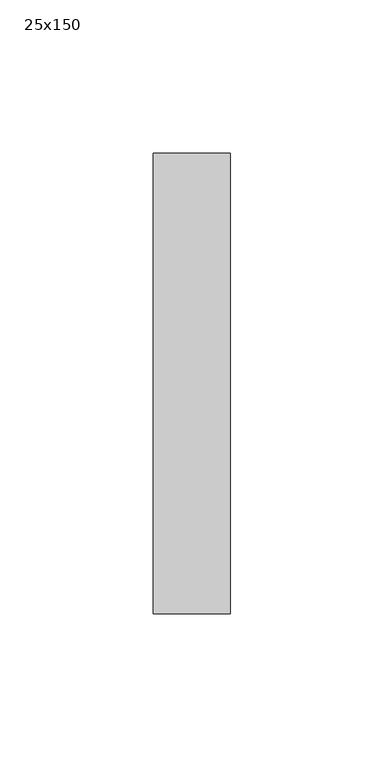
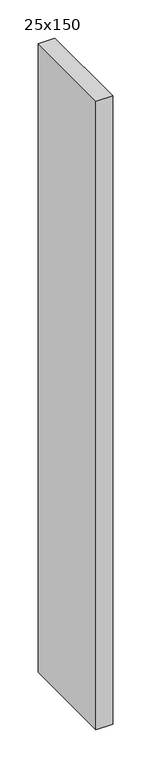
"""IFC4 building model written with IfcOpenShell, lengths in millimetres: member geometry, 長方形のマリオン : 25x150."""

from ifc_helpers import new_model, si_unit, frame, origin, place, context, project, spatial, polyline, outline, extrude, source, transform, mapped, element, save


def member_25x150_87a4a7cc(model_context):
    return source(origin(), model_context, "Body", "SweptSolid", [
        extrude(outline(polyline([(0.0, 75.0), (0.0, -75.0), (-25.0, -75.0), (-25.0, 75.0), (0.0, 75.0)])), frame((0.0, 0.0, -1000.0), z_axis=(0.0, 0.0, 1.0), x_axis=(1.0, 0.0, 0.0)), (0.0, 0.0, 1.0), 1000.0),
    ])


if __name__ == "__main__":
    model = new_model("IFC4")
    model_context = context("Model", 3, world=origin())
    ifc_project = project(units=[si_unit("LENGTHUNIT", "METRE", prefix="MILLI")], contexts=[model_context])
    site = spatial("IfcSite", under=ifc_project)
    building = spatial("IfcBuilding", under=site)
    placement = place(None, origin())
    member_25x150_shape = member_25x150_87a4a7cc(model_context)
    element("IfcMember", 1, ObjectType="長方形のマリオン : 25x150", at=placement, inside=building, context=model_context, shape_type="MappedRepresentation", body=[
        mapped(member_25x150_shape, transform((0.0, 0.0, 0.0), x_axis=(1.0, 0.0, 0.0), y_axis=(0.0, 1.0, 0.0), z_axis=(0.0, 0.0, 1.0))),
    ])
    save(model, "model.ifc")
